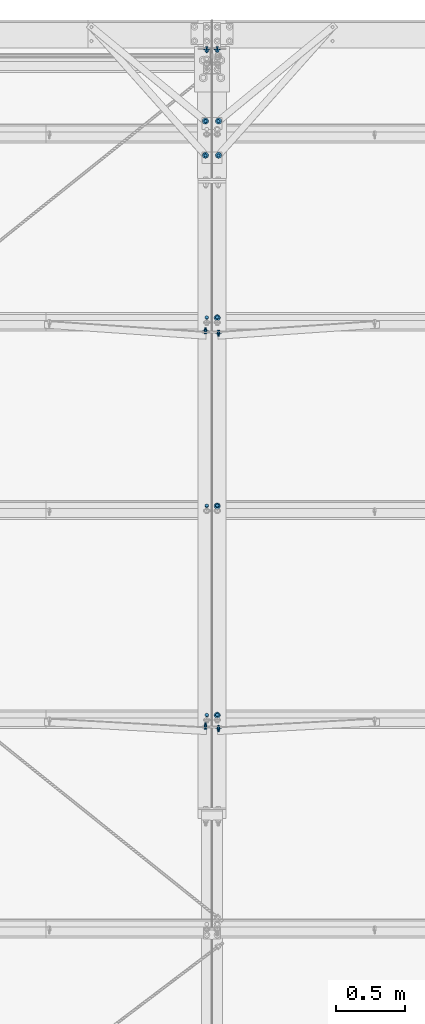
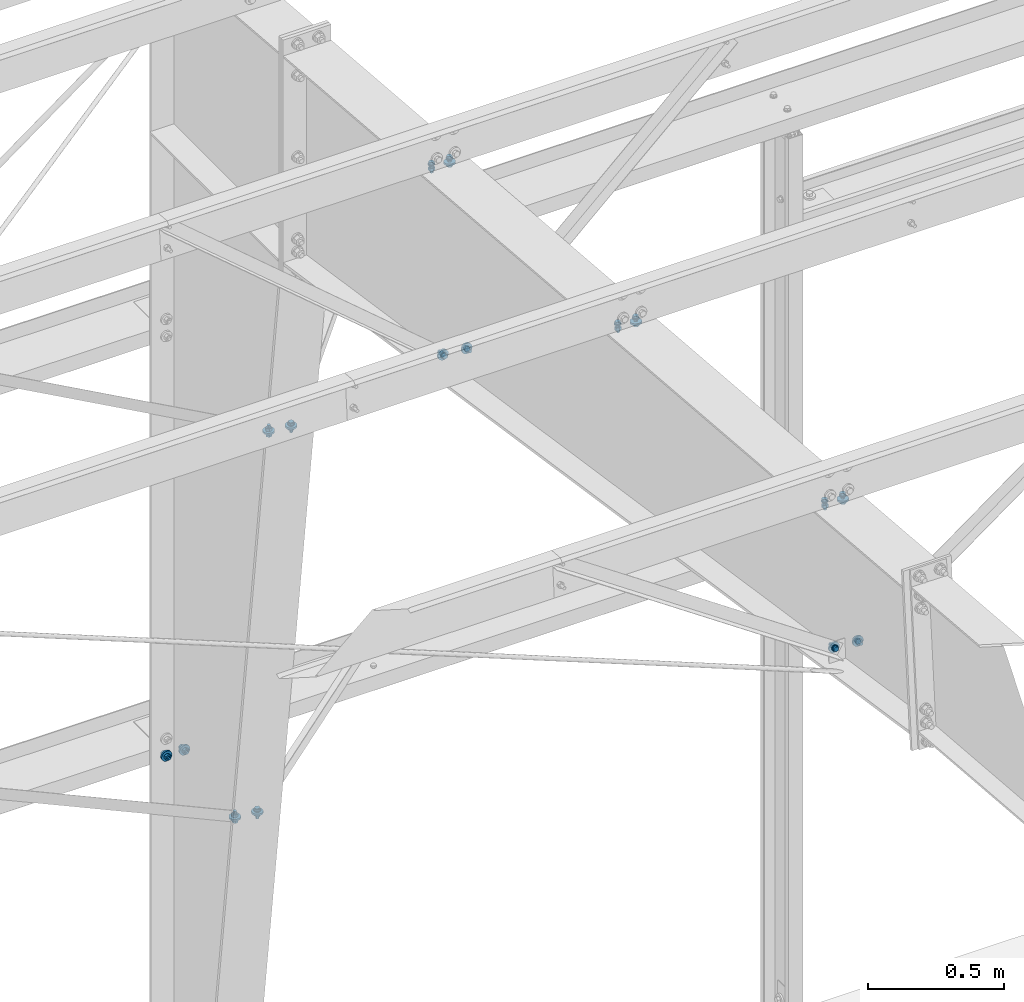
# One storey, part 177 of 185: 24 mechanical fasteners, 14 elements without a shape of their own.
"""IFC2X3 building model written with IfcOpenShell, lengths in millimetres."""

from ifc_helpers import new_model, si_unit, frame, origin_with_axes, origin_2d_with_axis, place, context, subcontext, project, spatial, polyline, circle, outline, extrude, source, transform, mapped, material, type_object, element, aggregate, save


model = new_model("IFC2X3")

# Units and contexts
model_context = context("Model", 3, precision=1e-05, world=origin_with_axes())
body_context = subcontext(model_context, "Body", "Model", "MODEL_VIEW")
ifc_project = project(units=[si_unit("LENGTHUNIT", "METRE", prefix="MILLI"), si_unit("AREAUNIT", "SQUARE_METRE"), si_unit("VOLUMEUNIT", "CUBIC_METRE"), si_unit("MASSUNIT", "GRAM", prefix="KILO"), si_unit("TIMEUNIT", "SECOND"), si_unit("PLANEANGLEUNIT", "RADIAN"), si_unit("SOLIDANGLEUNIT", "STERADIAN"), si_unit("THERMODYNAMICTEMPERATUREUNIT", "DEGREE_CELSIUS"), si_unit("LUMINOUSINTENSITYUNIT", "LUMEN")], contexts=[model_context])

# Site, building, storey
site_placement = place(None, origin_with_axes())
site = spatial("IfcSite", under=ifc_project, at=site_placement, Name="Undefined", CompositionType="ELEMENT")
building_placement = place(site_placement, origin_with_axes())
building = spatial("IfcBuilding", under=site, at=building_placement, Name="Undefined", CompositionType="ELEMENT")
storey_placement = place(building_placement, origin_with_axes())
storey = spatial("IfcBuildingStorey", under=building, at=storey_placement, Name="Undefined", CompositionType="ELEMENT", Elevation=0.0)

# Assembly, mechanical fastener
assembly_1_placement = place(storey_placement, origin_with_axes())
assembly_1 = element("IfcElementAssembly", 1, at=assembly_1_placement, inside=storey, Name="Steel Assembly", AssemblyPlace="NOTDEFINED", PredefinedType="RIGID_FRAME")
ifc_material_1 = material(Name="Undefined")
discrete_accessory_type = type_object("IfcDiscreteAccessoryType", Name="Bolt assembly")
shared_shape_1 = source(origin_with_axes(), body_context, "Body", "SweptSolid", [
    extrude(circle(Radius=7.14374971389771, at=origin_2d_with_axis()), frame((0.0, -1.59000001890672, 0.0), z_axis=(0.0, 1.0, 0.0), x_axis=(1.0, 0.0, 0.0)), (0.0, 0.0, 1.0), 1.7),
    extrude(outline(polyline([(10.9985221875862, 0.0), (5.4992610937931, 9.52499961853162), (-5.4992610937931, 9.52499961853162), (-10.9985221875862, 0.0), (-5.4992610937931, -9.52499961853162), (5.4992610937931, -9.52499961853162), (10.9985221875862, 0.0)])), frame((0.0, -15.0837496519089, 0.0), z_axis=(0.0, 1.0, 0.0), x_axis=(1.0, 0.0, 0.0)), (0.0, 0.0, 1.0), 9.5),
    extrude(circle(Radius=6.34999990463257, at=origin_2d_with_axis()), frame((0.0, -5.5587500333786, 0.0), z_axis=(0.0, 1.0, 0.0), x_axis=(1.0, 0.0, 0.0)), (0.0, 0.0, 1.0), 38.1),
    extrude(circle(Radius=13.4937496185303, at=origin_2d_with_axis()), frame((0.0, -5.5587500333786, 0.0), z_axis=(0.0, 1.0, 0.0), x_axis=(1.0, 0.0, 0.0)), (0.0, 0.0, 1.0), 4.0),
    extrude(circle(Radius=22.2250003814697, at=origin_2d_with_axis()), frame((0.0, 0.0, 0.0), z_axis=(0.0, 1.0, 0.0), x_axis=(1.0, 0.0, 0.0)), (0.0, 0.0, 1.0), 7.9),
    extrude(outline(polyline([(12.8316099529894, 0.0), (6.4158049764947, 11.1125001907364), (-6.4158049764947, 11.1125001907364), (-12.8316099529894, 0.0), (-6.4158049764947, -11.1125001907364), (6.4158049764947, -11.1125001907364), (12.8316099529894, 0.0)])), frame((0.0, 7.93750000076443, 0.0), z_axis=(0.0, 1.0, 0.0), x_axis=(1.0, 0.0, 0.0)), (0.0, 0.0, 1.0), 12.3),
])
mechanical_fastener_1_placement = place(assembly_1_placement, frame((37766.6028524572, 31270.0263730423, 2286.0), z_axis=(-0.636105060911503, 0.77160245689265, 0.0), x_axis=(0.771602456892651, 0.636105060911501, 0.0)))
mechanical_fastener_1 = element("IfcMechanicalFastener", 2, at=mechanical_fastener_1_placement, type_object=discrete_accessory_type, material=ifc_material_1, Name="Bolt assembly", NominalDiameter=12.6999998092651, NominalLength=38.0999984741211, context=body_context, shape_type="MappedRepresentation", body=[
    mapped(shared_shape_1, transform((0.0, 0.0, 0.0))),
])
aggregate(assembly_1, [mechanical_fastener_1])

assembly_2_placement = place(storey_placement, origin_with_axes())
assembly_2 = element("IfcElementAssembly", 3, at=assembly_2_placement, inside=storey, Name="Steel Assembly", AssemblyPlace="NOTDEFINED", PredefinedType="RIGID_FRAME")
mechanical_fastener_2_placement = place(assembly_2_placement, frame((37766.496148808, 31022.1390468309, 4165.6), z_axis=(-0.746933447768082, 0.664898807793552, 0.0), x_axis=(0.664898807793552, 0.746933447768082, 0.0)))
mechanical_fastener_2 = element("IfcMechanicalFastener", 4, at=mechanical_fastener_2_placement, type_object=discrete_accessory_type, material=ifc_material_1, Name="Bolt assembly", NominalDiameter=12.6999998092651, NominalLength=38.0999984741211, context=body_context, shape_type="MappedRepresentation", body=[
    mapped(shared_shape_1, transform((0.0, 0.0, 0.0))),
])
aggregate(assembly_2, [mechanical_fastener_2])

assembly_3_placement = place(storey_placement, origin_with_axes())
assembly_3 = element("IfcElementAssembly", 5, at=assembly_3_placement, inside=storey, Name="Steel Assembly", AssemblyPlace="NOTDEFINED", PredefinedType="RIGID_FRAME")
mechanical_fastener_3_placement = place(assembly_3_placement, frame((37671.335768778, 26870.2165225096, 5718.09440655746), z_axis=(-0.552924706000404, -0.0691960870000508, -0.830353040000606), x_axis=(-0.833231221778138, 0.0459178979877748, 0.551014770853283)))
mechanical_fastener_3 = element("IfcMechanicalFastener", 6, at=mechanical_fastener_3_placement, type_object=discrete_accessory_type, material=ifc_material_1, Name="Bolt assembly", NominalDiameter=12.6999998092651, NominalLength=38.0999984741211, context=body_context, shape_type="MappedRepresentation", body=[
    mapped(shared_shape_1, transform((0.0, 0.0, 0.0))),
])
aggregate(assembly_3, [mechanical_fastener_3])

assembly_4_placement = place(storey_placement, origin_with_axes())
assembly_4 = element("IfcElementAssembly", 7, at=assembly_4_placement, inside=storey, Name="Steel Assembly", AssemblyPlace="NOTDEFINED", PredefinedType="RIGID_FRAME")
mechanical_fastener_4_placement = place(assembly_4_placement, frame((37671.3998930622, 29740.0532802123, 5288.49423673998), z_axis=(-0.639120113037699, -0.0638708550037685, -0.766450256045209), x_axis=(-0.769106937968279, 0.0530760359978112, 0.636912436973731)))
mechanical_fastener_4 = element("IfcMechanicalFastener", 8, at=mechanical_fastener_4_placement, type_object=discrete_accessory_type, material=ifc_material_1, Name="Bolt assembly", NominalDiameter=12.6999998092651, NominalLength=38.0999984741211, context=body_context, shape_type="MappedRepresentation", body=[
    mapped(shared_shape_1, transform((0.0, 0.0, 0.0))),
])
aggregate(assembly_4, [mechanical_fastener_4])

assembly_5_placement = place(storey_placement, origin_with_axes())
assembly_5 = element("IfcElementAssembly", 9, at=assembly_5_placement, inside=storey, Name="Steel Assembly", AssemblyPlace="NOTDEFINED", PredefinedType="RIGID_FRAME")
shared_shape_2 = source(origin_with_axes(), body_context, "Body", "SweptSolid", [
    extrude(circle(Radius=7.14374971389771, at=origin_2d_with_axis()), frame((0.0, 0.0, 0.0), z_axis=(0.0, 1.0, 0.0), x_axis=(1.0, 0.0, 0.0)), (0.0, 0.0, 1.0), 1.7),
    extrude(outline(polyline([(10.9985221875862, 0.0), (5.4992610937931, 9.52499961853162), (-5.4992610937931, 9.52499961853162), (-10.9985221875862, 0.0), (-5.4992610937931, -9.52499961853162), (5.4992610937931, -9.52499961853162), (10.9985221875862, 0.0)])), frame((0.0, -13.4937496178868, 0.0), z_axis=(0.0, 1.0, 0.0), x_axis=(1.0, 0.0, 0.0)), (0.0, 0.0, 1.0), 9.5),
    extrude(circle(Radius=6.34999990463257, at=origin_2d_with_axis()), frame((0.0, -3.96874999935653, 0.0), z_axis=(0.0, 1.0, 0.0), x_axis=(1.0, 0.0, 0.0)), (0.0, 0.0, 1.0), 38.1),
    extrude(circle(Radius=13.4937496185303, at=origin_2d_with_axis()), frame((0.0, -3.96874999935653, 0.0), z_axis=(0.0, 1.0, 0.0), x_axis=(1.0, 0.0, 0.0)), (0.0, 0.0, 1.0), 4.0),
    extrude(circle(Radius=22.2250003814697, at=origin_2d_with_axis()), frame((0.0, 1.5900000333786, 0.0), z_axis=(0.0, 1.0, 0.0), x_axis=(1.0, 0.0, 0.0)), (0.0, 0.0, 1.0), 7.9),
    extrude(outline(polyline([(12.8316099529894, 0.0), (6.4158049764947, 11.1125001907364), (-6.4158049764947, 11.1125001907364), (-12.8316099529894, 0.0), (-6.4158049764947, -11.1125001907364), (6.4158049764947, -11.1125001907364), (12.8316099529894, 0.0)])), frame((0.0, 9.5275000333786, 0.0), z_axis=(0.0, 1.0, 0.0), x_axis=(1.0, 0.0, 0.0)), (0.0, 0.0, 1.0), 12.3),
])
mechanical_fastener_5_placement = place(assembly_5_placement, frame((37671.3971475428, 31270.0263730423, 2286.0), z_axis=(0.636105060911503, 0.77160245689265, 0.0), x_axis=(-0.771602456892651, 0.636105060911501, 0.0)))
mechanical_fastener_5 = element("IfcMechanicalFastener", 10, at=mechanical_fastener_5_placement, type_object=discrete_accessory_type, material=ifc_material_1, Name="Bolt assembly", NominalDiameter=12.6999998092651, NominalLength=38.0999984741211, context=body_context, shape_type="MappedRepresentation", body=[
    mapped(shared_shape_2, transform((0.0, 0.0, 0.0))),
])
aggregate(assembly_5, [mechanical_fastener_5])

assembly_6_placement = place(storey_placement, origin_with_axes())
assembly_6 = element("IfcElementAssembly", 11, at=assembly_6_placement, inside=storey, Name="Steel Assembly", AssemblyPlace="NOTDEFINED", PredefinedType="RIGID_FRAME")
mechanical_fastener_6_placement = place(assembly_6_placement, frame((37671.503851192, 31022.1390468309, 4165.6), z_axis=(0.746933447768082, 0.664898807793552, 0.0), x_axis=(-0.664898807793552, 0.746933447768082, 0.0)))
mechanical_fastener_6 = element("IfcMechanicalFastener", 12, at=mechanical_fastener_6_placement, type_object=discrete_accessory_type, material=ifc_material_1, Name="Bolt assembly", NominalDiameter=12.6999998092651, NominalLength=38.0999984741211, context=body_context, shape_type="MappedRepresentation", body=[
    mapped(shared_shape_2, transform((0.0, 0.0, 0.0))),
])
aggregate(assembly_6, [mechanical_fastener_6])

assembly_7_placement = place(storey_placement, origin_with_axes())
assembly_7 = element("IfcElementAssembly", 13, at=assembly_7_placement, inside=storey, Name="Steel Assembly", AssemblyPlace="NOTDEFINED", PredefinedType="RIGID_FRAME")
mechanical_fastener_7_placement = place(assembly_7_placement, frame((37766.664231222, 26870.2165225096, 5718.09440655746), z_axis=(0.552924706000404, -0.0691960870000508, -0.830353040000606), x_axis=(0.833231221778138, 0.0459178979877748, 0.551014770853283)))
mechanical_fastener_7 = element("IfcMechanicalFastener", 14, at=mechanical_fastener_7_placement, type_object=discrete_accessory_type, material=ifc_material_1, Name="Bolt assembly", NominalDiameter=12.6999998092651, NominalLength=38.0999984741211, context=body_context, shape_type="MappedRepresentation", body=[
    mapped(shared_shape_2, transform((0.0, 0.0, 0.0))),
])
aggregate(assembly_7, [mechanical_fastener_7])

assembly_8_placement = place(storey_placement, origin_with_axes())
assembly_8 = element("IfcElementAssembly", 15, at=assembly_8_placement, inside=storey, Name="Steel Assembly", AssemblyPlace="NOTDEFINED", PredefinedType="RIGID_FRAME")
mechanical_fastener_8_placement = place(assembly_8_placement, frame((37766.6001069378, 29740.0532802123, 5288.49423673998), z_axis=(0.639120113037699, -0.0638708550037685, -0.766450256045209), x_axis=(0.769106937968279, 0.0530760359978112, 0.636912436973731)))
mechanical_fastener_8 = element("IfcMechanicalFastener", 16, at=mechanical_fastener_8_placement, type_object=discrete_accessory_type, material=ifc_material_1, Name="Bolt assembly", NominalDiameter=12.6999998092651, NominalLength=38.0999984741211, context=body_context, shape_type="MappedRepresentation", body=[
    mapped(shared_shape_2, transform((0.0, 0.0, 0.0))),
])
aggregate(assembly_8, [mechanical_fastener_8])

# Assembly, mechanical fasteners
assembly_9_placement = place(storey_placement, origin_with_axes())
assembly_9 = element("IfcElementAssembly", 17, at=assembly_9_placement, inside=storey, Name="Steel Assembly", AssemblyPlace="NOTDEFINED", PredefinedType="RIGID_FRAME")
ifc_material_2 = material(Name="7990")
shared_shape_3 = source(origin_with_axes(), body_context, "Body", "SweptSolid", [
    extrude(circle(Radius=7.14374971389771, at=origin_2d_with_axis()), frame((0.0, -3.41600000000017, 0.0), z_axis=(0.0, 1.0, 0.0), x_axis=(1.0, 0.0, 0.0)), (0.0, 0.0, 1.0), 3.5),
    extrude(circle(Radius=11.4299998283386, at=origin_2d_with_axis()), frame((0.0, 0.0, 0.0), z_axis=(0.0, 1.0, 0.0), x_axis=(1.0, 0.0, 0.0)), (0.0, 0.0, 1.0), 4.2),
    extrude(outline(polyline([(12.171698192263, 0.0), (6.08584909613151, 10.5409998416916), (-6.08584909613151, 10.5409998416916), (-12.171698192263, 0.0), (-6.08584909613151, -10.5409998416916), (6.08584909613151, -10.5409998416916), (12.171698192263, 0.0)])), frame((0.0, 4.1909999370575, 0.0), z_axis=(0.0, 1.0, 0.0), x_axis=(1.0, 0.0, 0.0)), (0.0, 0.0, 1.0), 8.4),
])
mechanical_fastener_9_placement = place(assembly_9_placement, frame((37765.83125, 31269.3902679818, 2286.0), z_axis=(-0.921635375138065, -0.388057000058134, 0.0), x_axis=(0.388057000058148, -0.921635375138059, 0.0)))
mechanical_fastener_9 = element("IfcMechanicalFastener", 18, at=mechanical_fastener_9_placement, type_object=discrete_accessory_type, material=ifc_material_2, Name="Bolt assembly", NominalDiameter=12.6999998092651, NominalLength=38.0999984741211, context=body_context, shape_type="MappedRepresentation", body=[
    mapped(shared_shape_3, transform((0.0, 0.0, 0.0))),
])
mechanical_fastener_10_placement = place(assembly_9_placement, frame((37765.83125, 31021.3921133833, 4165.6), z_axis=(-0.921635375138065, -0.388057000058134, 0.0), x_axis=(0.388057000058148, -0.921635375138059, 0.0)))
mechanical_fastener_10 = element("IfcMechanicalFastener", 19, at=mechanical_fastener_10_placement, type_object=discrete_accessory_type, material=ifc_material_2, Name="Bolt assembly", NominalDiameter=12.6999998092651, NominalLength=38.0999984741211, context=body_context, shape_type="MappedRepresentation", body=[
    mapped(shared_shape_3, transform((0.0, 0.0, 0.0))),
])

assembly_10_placement = place(storey_placement, origin_with_axes())
assembly_10 = element("IfcElementAssembly", 20, at=assembly_10_placement, inside=storey, Name="Steel Assembly", AssemblyPlace="NOTDEFINED", PredefinedType="RIGID_FRAME")
mechanical_fastener_11_placement = place(assembly_10_placement, frame((37765.831, 26870.1706046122, 5717.54339178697), z_axis=(-0.921635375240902, -0.0322263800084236, -0.386716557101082), x_axis=(0.388056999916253, -0.0765376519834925, -0.918451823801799)))
mechanical_fastener_11 = element("IfcMechanicalFastener", 21, at=mechanical_fastener_11_placement, type_object=discrete_accessory_type, material=ifc_material_2, Name="Bolt assembly", NominalDiameter=12.6999998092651, NominalLength=38.0999984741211, context=body_context, shape_type="MappedRepresentation", body=[
    mapped(shared_shape_3, transform((0.0, 0.0, 0.0))),
])
mechanical_fastener_12_placement = place(assembly_10_placement, frame((37765.831, 29740.0002041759, 5287.85732430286), z_axis=(-0.921635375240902, -0.0322263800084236, -0.386716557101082), x_axis=(0.388056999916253, -0.0765376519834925, -0.918451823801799)))
mechanical_fastener_12 = element("IfcMechanicalFastener", 22, at=mechanical_fastener_12_placement, type_object=discrete_accessory_type, material=ifc_material_2, Name="Bolt assembly", NominalDiameter=12.6999998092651, NominalLength=38.0999984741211, context=body_context, shape_type="MappedRepresentation", body=[
    mapped(shared_shape_3, transform((0.0, 0.0, 0.0))),
])

# Mechanical fastener
shared_shape_4 = source(origin_with_axes(), body_context, "Body", "SweptSolid", [
    extrude(circle(Radius=7.14374971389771, at=origin_2d_with_axis()), frame((0.0, 0.0, 0.0), z_axis=(0.0, 1.0, 0.0), x_axis=(1.0, 0.0, 0.0)), (0.0, 0.0, 1.0), 3.5),
    extrude(circle(Radius=11.4299998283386, at=origin_2d_with_axis()), frame((0.0, 3.41600000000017, 0.0), z_axis=(0.0, 1.0, 0.0), x_axis=(1.0, 0.0, 0.0)), (0.0, 0.0, 1.0), 4.2),
    extrude(outline(polyline([(12.171698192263, 0.0), (6.08584909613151, 10.5409998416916), (-6.08584909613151, 10.5409998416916), (-12.171698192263, 0.0), (-6.08584909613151, -10.5409998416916), (6.08584909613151, -10.5409998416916), (12.171698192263, 0.0)])), frame((0.0, 7.60699993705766, 0.0), z_axis=(0.0, 1.0, 0.0), x_axis=(1.0, 0.0, 0.0)), (0.0, 0.0, 1.0), 8.4),
])
mechanical_fastener_13_placement = place(assembly_9_placement, frame((37672.16875, 31269.3902679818, 2286.0), z_axis=(0.921635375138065, -0.388057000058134, 0.0), x_axis=(-0.388057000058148, -0.921635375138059, 0.0)))
mechanical_fastener_13 = element("IfcMechanicalFastener", 23, at=mechanical_fastener_13_placement, type_object=discrete_accessory_type, material=ifc_material_2, Name="Bolt assembly", NominalDiameter=12.6999998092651, NominalLength=38.0999984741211, context=body_context, shape_type="MappedRepresentation", body=[
    mapped(shared_shape_4, transform((0.0, 0.0, 0.0))),
])

mechanical_fastener_14_placement = place(assembly_9_placement, frame((37672.16875, 31021.3921133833, 4165.6), z_axis=(0.921635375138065, -0.388057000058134, 0.0), x_axis=(-0.388057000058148, -0.921635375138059, 0.0)))
mechanical_fastener_14 = element("IfcMechanicalFastener", 24, at=mechanical_fastener_14_placement, type_object=discrete_accessory_type, material=ifc_material_2, Name="Bolt assembly", NominalDiameter=12.6999998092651, NominalLength=38.0999984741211, context=body_context, shape_type="MappedRepresentation", body=[
    mapped(shared_shape_4, transform((0.0, 0.0, 0.0))),
])

aggregate(assembly_9, [mechanical_fastener_9, mechanical_fastener_13, mechanical_fastener_10, mechanical_fastener_14])

mechanical_fastener_15_placement = place(assembly_10_placement, frame((37672.169, 26870.1706046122, 5717.54339178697), z_axis=(0.921635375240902, -0.0322263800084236, -0.386716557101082), x_axis=(-0.388056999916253, -0.0765376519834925, -0.918451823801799)))
mechanical_fastener_15 = element("IfcMechanicalFastener", 25, at=mechanical_fastener_15_placement, type_object=discrete_accessory_type, material=ifc_material_2, Name="Bolt assembly", NominalDiameter=12.6999998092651, NominalLength=38.0999984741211, context=body_context, shape_type="MappedRepresentation", body=[
    mapped(shared_shape_4, transform((0.0, 0.0, 0.0))),
])

mechanical_fastener_16_placement = place(assembly_10_placement, frame((37672.169, 29740.0002041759, 5287.85732430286), z_axis=(0.921635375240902, -0.0322263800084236, -0.386716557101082), x_axis=(-0.388056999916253, -0.0765376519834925, -0.918451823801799)))
mechanical_fastener_16 = element("IfcMechanicalFastener", 26, at=mechanical_fastener_16_placement, type_object=discrete_accessory_type, material=ifc_material_2, Name="Bolt assembly", NominalDiameter=12.6999998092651, NominalLength=38.0999984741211, context=body_context, shape_type="MappedRepresentation", body=[
    mapped(shared_shape_4, transform((0.0, 0.0, 0.0))),
])

aggregate(assembly_10, [mechanical_fastener_15, mechanical_fastener_11, mechanical_fastener_16, mechanical_fastener_12])

# Assembly, mechanical fasteners
assembly_11_placement = place(storey_placement, origin_with_axes())
assembly_11 = element("IfcElementAssembly", 27, at=assembly_11_placement, inside=storey, Name="Steel Assembly", AssemblyPlace="NOTDEFINED", PredefinedType="RIGID_FRAME")
shared_shape_5 = source(origin_with_axes(), body_context, "Body", "SweptSolid", [
    extrude(circle(Radius=7.14374971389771, at=origin_2d_with_axis()), frame((0.0, -3.08000006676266, 0.0), z_axis=(0.0, 1.0, 0.0), x_axis=(1.0, 0.0, 0.0)), (0.0, 0.0, 1.0), 3.2),
    extrude(circle(Radius=7.14374971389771, at=origin_2d_with_axis()), frame((0.0, -3.08000006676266, 0.0), z_axis=(0.0, 1.0, 0.0), x_axis=(1.0, 0.0, 0.0)), (0.0, 0.0, 1.0), 3.2),
    extrude(circle(Radius=7.14374971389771, at=origin_2d_with_axis()), frame((0.0, -0.1, 0.0), z_axis=(0.0, 1.0, 0.0), x_axis=(1.0, 0.0, 0.0)), (0.0, 0.0, 1.0), 8.0),
    extrude(outline(polyline([(10.9985221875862, 0.0), (5.4992610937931, 9.52499961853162), (-5.4992610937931, 9.52499961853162), (-10.9985221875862, 0.0), (-5.4992610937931, -9.52499961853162), (5.4992610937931, -9.52499961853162), (10.9985221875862, 0.0)])), frame((0.0, -12.7050014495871, 0.0), z_axis=(0.0, 1.0, 0.0), x_axis=(1.0, 0.0, 0.0)), (0.0, 0.0, 1.0), 9.5),
    extrude(circle(Radius=6.34999990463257, at=origin_2d_with_axis()), frame((0.0, -3.18000030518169, 0.0), z_axis=(0.0, 1.0, 0.0), x_axis=(1.0, 0.0, 0.0)), (0.0, 0.0, 1.0), 38.1),
    extrude(circle(Radius=22.2250003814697, at=origin_2d_with_axis()), frame((0.0, 7.87399999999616, 0.0), z_axis=(0.0, 1.0, 0.0), x_axis=(1.0, 0.0, 0.0)), (0.0, 0.0, 1.0), 7.9),
    extrude(outline(polyline([(12.8316099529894, 0.0), (6.4158049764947, 11.1125001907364), (-6.4158049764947, 11.1125001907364), (-12.8316099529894, 0.0), (-6.4158049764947, -11.1125001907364), (6.4158049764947, -11.1125001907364), (12.8316099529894, 0.0)])), frame((0.0, 15.8114999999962, 0.0), z_axis=(0.0, 1.0, 0.0), x_axis=(1.0, 0.0, 0.0)), (0.0, 0.0, 1.0), 12.3),
])
mechanical_fastener_17_placement = place(assembly_11_placement, frame((37680.9, 31800.8, 2247.9), z_axis=(-1.0, 0.0, 0.0), x_axis=(0.0, 0.0, -1.0)))
mechanical_fastener_17 = element("IfcMechanicalFastener", 28, at=mechanical_fastener_17_placement, type_object=discrete_accessory_type, material=ifc_material_1, Name="Bolt assembly", NominalDiameter=12.6999998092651, NominalLength=38.0999984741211, context=body_context, shape_type="MappedRepresentation", body=[
    mapped(shared_shape_5, transform((0.0, 0.0, 0.0))),
])
mechanical_fastener_18_placement = place(assembly_11_placement, frame((37757.1, 31800.8, 2247.9), z_axis=(-1.0, 0.0, 0.0), x_axis=(0.0, 0.0, -1.0)))
mechanical_fastener_18 = element("IfcMechanicalFastener", 29, at=mechanical_fastener_18_placement, type_object=discrete_accessory_type, material=ifc_material_1, Name="Bolt assembly", NominalDiameter=12.6999998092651, NominalLength=38.0999984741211, context=body_context, shape_type="MappedRepresentation", body=[
    mapped(shared_shape_5, transform((0.0, 0.0, 0.0))),
])
aggregate(assembly_11, [mechanical_fastener_17, mechanical_fastener_18])

# Assembly, mechanical fastener
assembly_12_placement = place(storey_placement, origin_with_axes())
assembly_12 = element("IfcElementAssembly", 30, at=assembly_12_placement, inside=storey, Name="Steel Assembly", AssemblyPlace="NOTDEFINED", PredefinedType="RIGID_FRAME")
shared_shape_6 = source(origin_with_axes(), body_context, "Body", "SweptSolid", [
    extrude(circle(Radius=7.14374971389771, at=origin_2d_with_axis()), frame((0.0, -0.0238014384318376, 0.0), z_axis=(0.0, 1.0, 0.0), x_axis=(1.0, 0.0, 0.0)), (0.0, 0.0, 1.0), 8.0),
    extrude(circle(Radius=7.14374971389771, at=origin_2d_with_axis()), frame((0.0, -3.08000006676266, 0.0), z_axis=(0.0, 1.0, 0.0), x_axis=(1.0, 0.0, 0.0)), (0.0, 0.0, 1.0), 3.2),
    extrude(circle(Radius=7.14374971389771, at=origin_2d_with_axis()), frame((0.0, -3.08000006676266, 0.0), z_axis=(0.0, 1.0, 0.0), x_axis=(1.0, 0.0, 0.0)), (0.0, 0.0, 1.0), 3.2),
    extrude(outline(polyline([(10.9985221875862, 0.0), (5.4992610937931, 9.52499961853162), (-5.4992610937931, 9.52499961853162), (-10.9985221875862, 0.0), (-5.4992610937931, -9.52499961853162), (5.4992610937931, -9.52499961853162), (10.9985221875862, 0.0)])), frame((0.0, -16.6737496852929, 0.0), z_axis=(0.0, 1.0, 0.0), x_axis=(1.0, 0.0, 0.0)), (0.0, 0.0, 1.0), 9.5),
    extrude(circle(Radius=6.34999990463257, at=origin_2d_with_axis()), frame((0.0, -7.14875006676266, 0.0), z_axis=(0.0, 1.0, 0.0), x_axis=(1.0, 0.0, 0.0)), (0.0, 0.0, 1.0), 38.1),
    extrude(circle(Radius=13.4937496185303, at=origin_2d_with_axis()), frame((0.0, -7.14875006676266, 0.0), z_axis=(0.0, 1.0, 0.0), x_axis=(1.0, 0.0, 0.0)), (0.0, 0.0, 1.0), 4.0),
    extrude(circle(Radius=22.2250003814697, at=origin_2d_with_axis()), frame((0.0, 7.95019856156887, 0.0), z_axis=(0.0, 1.0, 0.0), x_axis=(1.0, 0.0, 0.0)), (0.0, 0.0, 1.0), 7.9),
    extrude(outline(polyline([(12.8316099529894, 0.0), (6.4158049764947, 11.1125001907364), (-6.4158049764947, 11.1125001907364), (-12.8316099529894, 0.0), (-6.4158049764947, -11.1125001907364), (6.4158049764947, -11.1125001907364), (12.8316099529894, 0.0)])), frame((0.0, 15.8876985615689, 0.0), z_axis=(0.0, 1.0, 0.0), x_axis=(1.0, 0.0, 0.0)), (0.0, 0.0, 1.0), 12.3),
])
mechanical_fastener_19_placement = place(assembly_12_placement, frame((37757.1, 26957.9904234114, 6312.59646404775), z_axis=(-1.0, 0.0, 0.0), x_axis=(0.0, 0.996545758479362, -0.0830454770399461)))
mechanical_fastener_19 = element("IfcMechanicalFastener", 31, at=mechanical_fastener_19_placement, type_object=discrete_accessory_type, material=ifc_material_1, Name="Bolt assembly", NominalDiameter=12.6999998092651, NominalLength=38.0999984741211, context=body_context, shape_type="MappedRepresentation", body=[
    mapped(shared_shape_6, transform((0.0, 0.0, 0.0))),
])

assembly_13_placement = place(storey_placement, origin_with_axes())
assembly_13 = element("IfcElementAssembly", 32, at=assembly_13_placement, inside=storey, Name="Steel Assembly", AssemblyPlace="NOTDEFINED", PredefinedType="RIGID_FRAME")
mechanical_fastener_20_placement = place(assembly_13_placement, frame((37757.1, 28476.7261589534, 6186.03515249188), z_axis=(-1.0, 0.0, 0.0), x_axis=(0.0, 0.996545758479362, -0.0830454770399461)))
mechanical_fastener_20 = element("IfcMechanicalFastener", 33, at=mechanical_fastener_20_placement, type_object=discrete_accessory_type, material=ifc_material_1, Name="Bolt assembly", NominalDiameter=12.6999998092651, NominalLength=38.0999984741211, context=body_context, shape_type="MappedRepresentation", body=[
    mapped(shared_shape_6, transform((0.0, 0.0, 0.0))),
])

assembly_14_placement = place(storey_placement, origin_with_axes())
assembly_14 = element("IfcElementAssembly", 34, at=assembly_14_placement, inside=storey, Name="Steel Assembly", AssemblyPlace="NOTDEFINED", PredefinedType="RIGID_FRAME")
mechanical_fastener_21_placement = place(assembly_14_placement, frame((37757.1, 29843.5883209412, 6072.12997209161), z_axis=(-1.0, 0.0, 0.0), x_axis=(0.0, 0.996545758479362, -0.0830454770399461)))
mechanical_fastener_21 = element("IfcMechanicalFastener", 35, at=mechanical_fastener_21_placement, type_object=discrete_accessory_type, material=ifc_material_1, Name="Bolt assembly", NominalDiameter=12.6999998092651, NominalLength=38.0999984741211, context=body_context, shape_type="MappedRepresentation", body=[
    mapped(shared_shape_6, transform((0.0, 0.0, 0.0))),
])

# Mechanical fastener
shared_shape_7 = source(origin_with_axes(), body_context, "Body", "SweptSolid", [
    extrude(circle(Radius=7.14374971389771, at=origin_2d_with_axis()), frame((0.0, -0.0238014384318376, 0.0), z_axis=(0.0, 1.0, 0.0), x_axis=(1.0, 0.0, 0.0)), (0.0, 0.0, 1.0), 8.0),
    extrude(circle(Radius=7.14374971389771, at=origin_2d_with_axis()), frame((0.0, -3.08000006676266, 0.0), z_axis=(0.0, 1.0, 0.0), x_axis=(1.0, 0.0, 0.0)), (0.0, 0.0, 1.0), 3.2),
    extrude(circle(Radius=7.14374971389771, at=origin_2d_with_axis()), frame((0.0, -3.08000006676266, 0.0), z_axis=(0.0, 1.0, 0.0), x_axis=(1.0, 0.0, 0.0)), (0.0, 0.0, 1.0), 3.2),
    extrude(outline(polyline([(10.9985221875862, 0.0), (5.4992610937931, 9.52499961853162), (-5.4992610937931, 9.52499961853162), (-10.9985221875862, 0.0), (-5.4992610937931, -9.52499961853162), (5.4992610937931, -9.52499961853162), (10.9985221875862, 0.0)])), frame((0.0, -16.6737496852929, 0.0), z_axis=(0.0, 1.0, 0.0), x_axis=(1.0, 0.0, 0.0)), (0.0, 0.0, 1.0), 9.5),
    extrude(circle(Radius=6.34999990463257, at=origin_2d_with_axis()), frame((0.0, -7.14875006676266, 0.0), z_axis=(0.0, 1.0, 0.0), x_axis=(1.0, 0.0, 0.0)), (0.0, 0.0, 1.0), 38.1),
    extrude(circle(Radius=13.4937496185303, at=origin_2d_with_axis()), frame((0.0, -7.14875006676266, 0.0), z_axis=(0.0, 1.0, 0.0), x_axis=(1.0, 0.0, 0.0)), (0.0, 0.0, 1.0), 4.0),
    extrude(outline(polyline([(12.8316099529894, 0.0), (6.4158049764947, 11.1125001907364), (-6.4158049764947, 11.1125001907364), (-12.8316099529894, 0.0), (-6.4158049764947, -11.1125001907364), (6.4158049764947, -11.1125001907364), (12.8316099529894, 0.0)])), frame((0.0, 7.95019856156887, 0.0), z_axis=(0.0, 1.0, 0.0), x_axis=(1.0, 0.0, 0.0)), (0.0, 0.0, 1.0), 12.3),
])
mechanical_fastener_22_placement = place(assembly_12_placement, frame((37680.9, 26957.9904234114, 6312.59646404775), z_axis=(-1.0, 0.0, 0.0), x_axis=(0.0, 0.996545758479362, -0.0830454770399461)))
mechanical_fastener_22 = element("IfcMechanicalFastener", 36, at=mechanical_fastener_22_placement, type_object=discrete_accessory_type, material=ifc_material_1, Name="Bolt assembly", NominalDiameter=12.6999998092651, NominalLength=38.0999984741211, context=body_context, shape_type="MappedRepresentation", body=[
    mapped(shared_shape_7, transform((0.0, 0.0, 0.0))),
])

aggregate(assembly_12, [mechanical_fastener_19, mechanical_fastener_22])

mechanical_fastener_23_placement = place(assembly_13_placement, frame((37680.9, 28476.7261589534, 6186.03515249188), z_axis=(-1.0, 0.0, 0.0), x_axis=(0.0, 0.996545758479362, -0.0830454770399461)))
mechanical_fastener_23 = element("IfcMechanicalFastener", 37, at=mechanical_fastener_23_placement, type_object=discrete_accessory_type, material=ifc_material_1, Name="Bolt assembly", NominalDiameter=12.6999998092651, NominalLength=38.0999984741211, context=body_context, shape_type="MappedRepresentation", body=[
    mapped(shared_shape_7, transform((0.0, 0.0, 0.0))),
])

aggregate(assembly_13, [mechanical_fastener_20, mechanical_fastener_23])

mechanical_fastener_24_placement = place(assembly_14_placement, frame((37680.9, 29843.5883209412, 6072.12997209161), z_axis=(-1.0, 0.0, 0.0), x_axis=(0.0, 0.996545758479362, -0.0830454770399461)))
mechanical_fastener_24 = element("IfcMechanicalFastener", 38, at=mechanical_fastener_24_placement, type_object=discrete_accessory_type, material=ifc_material_1, Name="Bolt assembly", NominalDiameter=12.6999998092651, NominalLength=38.0999984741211, context=body_context, shape_type="MappedRepresentation", body=[
    mapped(shared_shape_7, transform((0.0, 0.0, 0.0))),
])

aggregate(assembly_14, [mechanical_fastener_21, mechanical_fastener_24])

save(model, "model.ifc")
